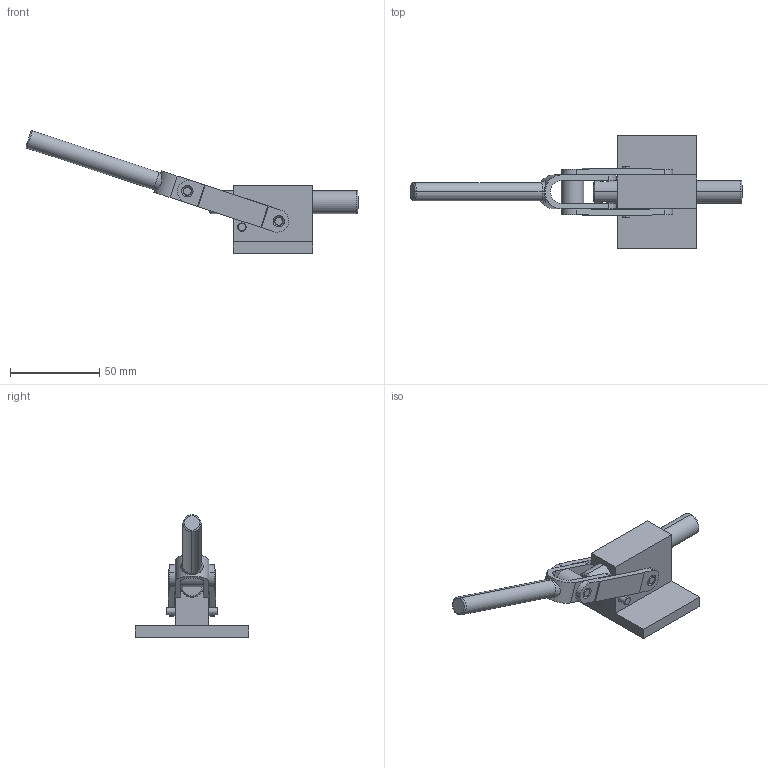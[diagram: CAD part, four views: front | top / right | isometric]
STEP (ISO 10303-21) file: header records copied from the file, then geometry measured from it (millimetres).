
FILE_DESCRIPTION( ( '' ), '1' );
FILE_NAME( 'C:\Documents and Settings\Richard Grenzke\My Documents\Wolverine Company Data\WOLVERINE CD 5_17_05\SOLIDS STEP\straight_line\c131a.stp', ' ', ( '' ), ( '' ), 'ACIS Interop R16', 'Kubotek KeyCreator V5.5.1 (0454)', ' ' );
FILE_SCHEMA( ( 'CONFIG_CONTROL_DESIGN' ) );
Length unit declared in the file: inch
Products named in the file (13): 1; 2; 3; 4; 5; 6; 7; 8; 9; 10; 11; 12; 13
Bounding box: 186.21 x 63.5 x 68.63 mm (x, y, z)
Volume: 64063.7 mm3; surface area: 29698.5 mm2
Topology: 12 solids, 12 shells, 144 faces, 385 edges, 266 vertices
Faces by surface type: plane 66, cylinder 58, cone 16, torus 4
Entity records: 5342 total; most frequent: CARTESIAN_POINT 940, DIRECTION 865, ORIENTED_EDGE 770, EDGE_CURVE 385, AXIS2_PLACEMENT_3D 335, VERTEX_POINT 266, LINE 195, VECTOR 195
